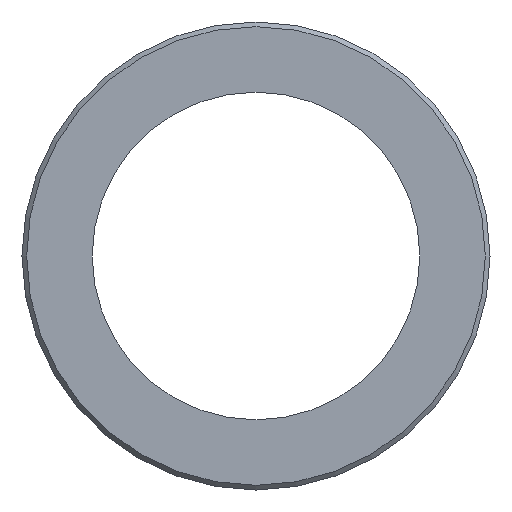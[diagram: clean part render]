
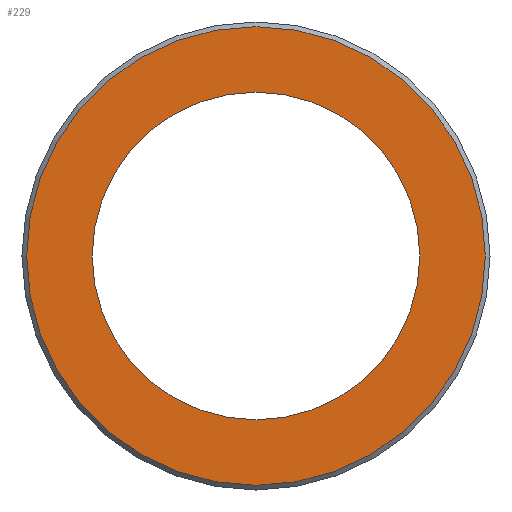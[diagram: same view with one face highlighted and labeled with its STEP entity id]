
A CAD part, left-side view. The second image highlights one B-rep face of the part: STEP entity #229.
In plain terms, the highlighted planar face has unit normal (-1, 0, 0).
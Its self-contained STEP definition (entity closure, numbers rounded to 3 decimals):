
#16=PLANE('',#257);
#32=FACE_BOUND('',#79,.T.);
#53=FACE_OUTER_BOUND('',#78,.T.);
#78=EDGE_LOOP('',(#183));
#79=EDGE_LOOP('',(#184));
#116=CIRCLE('',#256,19.6);
#117=CIRCLE('',#258,14.);
#137=VERTEX_POINT('',#389);
#138=VERTEX_POINT('',#392);
#158=EDGE_CURVE('',#137,#137,#116,.T.);
#159=EDGE_CURVE('',#138,#138,#117,.T.);
#183=ORIENTED_EDGE('',*,*,#158,.F.);
#184=ORIENTED_EDGE('',*,*,#159,.F.);
#229=ADVANCED_FACE('',(#53,#32),#16,.T.);
#256=AXIS2_PLACEMENT_3D('',#390,#308,#309);
#257=AXIS2_PLACEMENT_3D('',#391,#310,#311);
#258=AXIS2_PLACEMENT_3D('',#393,#312,#313);
#308=DIRECTION('center_axis',(1.,0.,0.));
#309=DIRECTION('ref_axis',(0.,1.,0.));
#310=DIRECTION('center_axis',(-1.,0.,0.));
#311=DIRECTION('ref_axis',(0.,0.,1.));
#312=DIRECTION('center_axis',(-1.,0.,0.));
#313=DIRECTION('ref_axis',(0.,0.,1.));
#389=CARTESIAN_POINT('',(0.,-19.6,0.));
#390=CARTESIAN_POINT('Origin',(0.,0.,0.));
#391=CARTESIAN_POINT('Origin',(0.,-14.,0.));
#392=CARTESIAN_POINT('',(0.,-14.,0.));
#393=CARTESIAN_POINT('Origin',(0.,0.,0.));
